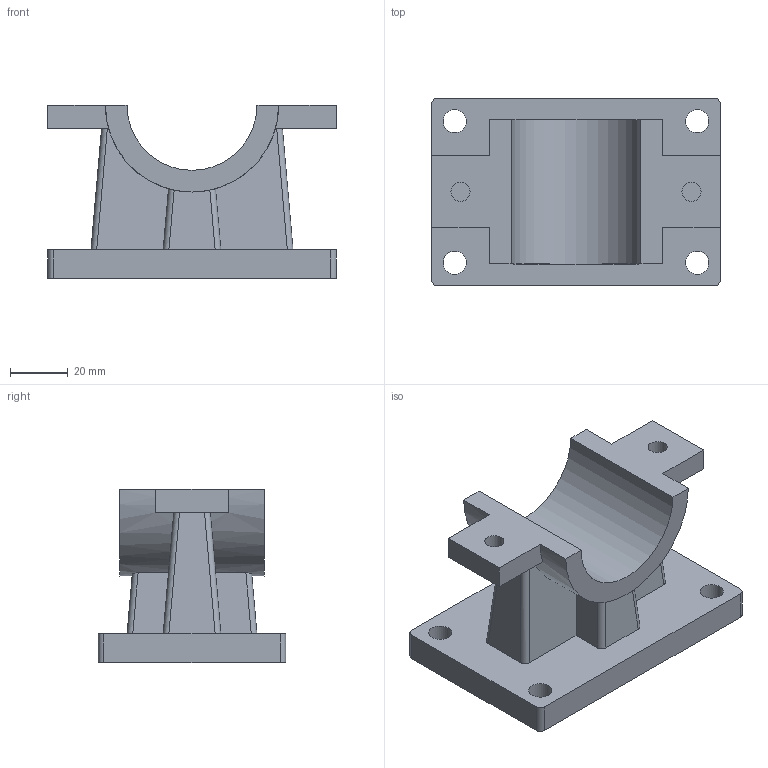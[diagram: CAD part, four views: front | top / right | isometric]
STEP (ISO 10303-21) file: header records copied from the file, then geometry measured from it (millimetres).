
FILE_DESCRIPTION(/* description */ ('Podpora główna','CAx-IF Rec.Pracs.---Representation and Presentation of Product Manufacturing Information (PMI)---4.0---2014-10-13'),/* implementation_level */ '2;1');
FILE_NAME(/* name */ 'C:\ZCAI_2018_KP\R5 Części\Widok\850-000-001.stp',/* time_stamp */ '2018-01-09T02:11:43+01:00',/* author */ ('ExpertBooks'),/* organization */ ('Fabian Stasiak CAD Consulting'),/* preprocessor_version */ 'ST-DEVELOPER v17',/* originating_system */ 'Autodesk Inventor 2018',/* authorisation */ 'B.S.');
FILE_SCHEMA (('AP242_MANAGED_MODEL_BASED_3D_ENGINEERING_MIM_LF { 1 0 10303 442 1 1 4 }'));
Length unit declared in the file: millimetre
Products named in the file (1): 850-000-001
Bounding box: 100 x 65 x 60 mm (x, y, z)
Volume: 142811.2 mm3; surface area: 32378.7 mm2
Topology: 1 solids, 1 shells, 51 faces, 150 edges, 102 vertices
Faces by surface type: plane 30, cylinder 21
Full cylindrical faces by diameter (mm): 6.647 x2, 8 x4
Entity records: 2963 total; most frequent: CARTESIAN_POINT 453, DIRECTION 376, ORIENTED_EDGE 300, COORDINATES_LIST 204, TESSELLATED_CURVE_SET 151, EDGE_CURVE 150, AXIS2_PLACEMENT_3D 145, VERTEX_POINT 102
